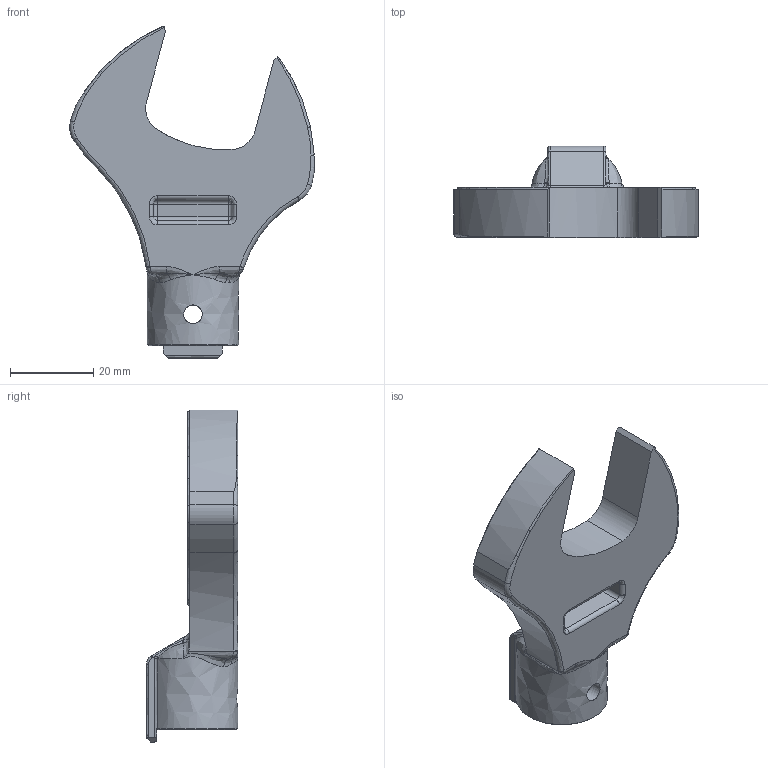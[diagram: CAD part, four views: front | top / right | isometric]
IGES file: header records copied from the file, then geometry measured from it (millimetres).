
Global section: file name: SH15DX27; native system: Autodesk Inventor 2016; preprocessor: unknown; author: Q600; date: 20151029.184016; units: millimetre
Bounding box: 58.85 x 22 x 79.84 mm (x, y, z)
Volume: 24542.9 mm3; surface area: 9030.7 mm2
Topology: 1 solids, 1 shells, 134 faces, 355 edges, 215 vertices
Faces by surface type: bspline 134
